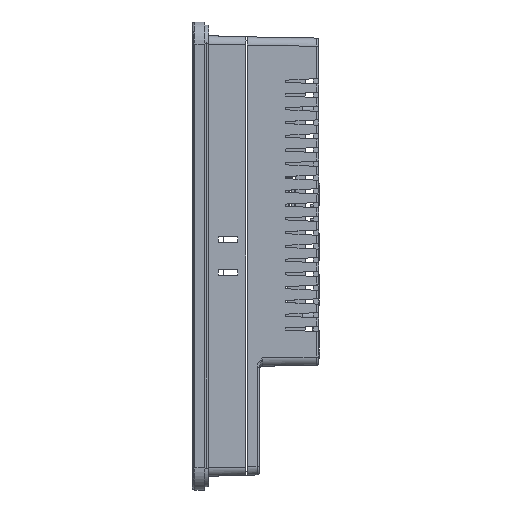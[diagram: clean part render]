
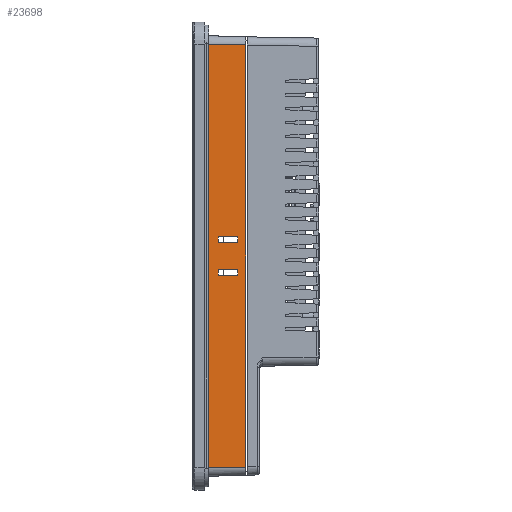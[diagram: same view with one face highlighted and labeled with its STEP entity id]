
A CAD part, left-side view. The second image highlights one B-rep face of the part: STEP entity #23698.
In plain terms, the highlighted planar face has unit normal (-1, -0.018, 0).
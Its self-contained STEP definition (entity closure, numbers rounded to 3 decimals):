
#2379 = EDGE_CURVE ( 'NONE', #91436, #16927, #16075, .T. ) ;
#2589 = CARTESIAN_POINT ( 'NONE',  ( -126.791, -12., 7. ) ) ;
#3004 = CARTESIAN_POINT ( 'NONE',  ( -127., 0., -7. ) ) ;
#4069 = CARTESIAN_POINT ( 'NONE',  ( -127., 0., 7. ) ) ;
#5591 = CARTESIAN_POINT ( 'NONE',  ( -127.026, 1.5, 77.027 ) ) ;
#7937 = AXIS2_PLACEMENT_3D ( 'NONE', #29716, #52739, #30444 ) ;
#9036 = DIRECTION ( 'NONE',  ( 0., 0., -1. ) ) ;
#11118 = CARTESIAN_POINT ( 'NONE',  ( -126.913, -5., 4.9 ) ) ;
#13306 = ORIENTED_EDGE ( 'NONE', *, *, #54019, .F. ) ;
#13362 = LINE ( 'NONE', #3004, #133371 ) ;
#14796 = LINE ( 'NONE', #128243, #76626 ) ;
#16075 = LINE ( 'NONE', #50149, #136187 ) ;
#16927 = VERTEX_POINT ( 'NONE', #146467 ) ;
#17894 = FACE_BOUND ( 'NONE', #75942, .T. ) ;
#19926 = CARTESIAN_POINT ( 'NONE',  ( -126.913, -5., -7. ) ) ;
#20518 = ORIENTED_EDGE ( 'NONE', *, *, #23829, .T. ) ;
#21131 = VERTEX_POINT ( 'NONE', #31387 ) ;
#23698 = ADVANCED_FACE ( 'NONE', ( #17894, #99414, #144587 ), #63160, .T. ) ;
#23829 = EDGE_CURVE ( 'NONE', #91436, #63311, #14796, .T. ) ;
#24703 = VERTEX_POINT ( 'NONE', #19926 ) ;
#25105 = LINE ( 'NONE', #127489, #29040 ) ;
#25112 = DIRECTION ( 'NONE',  ( -0.017, 1., 0.017 ) ) ;
#26780 = VECTOR ( 'NONE', #54933, 1000. ) ;
#29040 = VECTOR ( 'NONE', #116368, 1000. ) ;
#29716 = CARTESIAN_POINT ( 'NONE',  ( -127., 0., 80. ) ) ;
#30444 = DIRECTION ( 'NONE',  ( 0.017, -1., 0. ) ) ;
#30499 = VERTEX_POINT ( 'NONE', #71595 ) ;
#31270 = VECTOR ( 'NONE', #95879, 1000. ) ;
#31387 = CARTESIAN_POINT ( 'NONE',  ( -126.913, -5., 7. ) ) ;
#32977 = CARTESIAN_POINT ( 'NONE',  ( -126.913, -5., -4.9 ) ) ;
#33144 = CARTESIAN_POINT ( 'NONE',  ( -126.738, -15., 76.739 ) ) ;
#33234 = VECTOR ( 'NONE', #61159, 1000. ) ;
#35046 = VERTEX_POINT ( 'NONE', #107329 ) ;
#35408 = LINE ( 'NONE', #123006, #104880 ) ;
#37284 = CARTESIAN_POINT ( 'NONE',  ( -126.791, -12., -4.9 ) ) ;
#38884 = EDGE_CURVE ( 'NONE', #30499, #59690, #129456, .T. ) ;
#45576 = EDGE_CURVE ( 'NONE', #133675, #24703, #86918, .T. ) ;
#50149 = CARTESIAN_POINT ( 'NONE',  ( -126.738, -15., 80. ) ) ;
#50615 = CARTESIAN_POINT ( 'NONE',  ( -127., 0., 4.9 ) ) ;
#52739 = DIRECTION ( 'NONE',  ( -1., -0.017, 0. ) ) ;
#53720 = CARTESIAN_POINT ( 'NONE',  ( -126.913, -5., 80. ) ) ;
#54019 = EDGE_CURVE ( 'NONE', #21131, #133216, #110086, .T. ) ;
#54933 = DIRECTION ( 'NONE',  ( 0.017, -1., 0.017 ) ) ;
#56674 = EDGE_CURVE ( 'NONE', #73478, #21131, #82626, .T. ) ;
#59064 = ORIENTED_EDGE ( 'NONE', *, *, #144924, .T. ) ;
#59690 = VERTEX_POINT ( 'NONE', #37284 ) ;
#60037 = CARTESIAN_POINT ( 'NONE',  ( -126.791, -12., 80. ) ) ;
#61159 = DIRECTION ( 'NONE',  ( -0.017, 1., 0. ) ) ;
#61817 = ORIENTED_EDGE ( 'NONE', *, *, #56674, .F. ) ;
#62522 = CARTESIAN_POINT ( 'NONE',  ( -126.913, -5., 80. ) ) ;
#63160 = PLANE ( 'NONE',  #7937 ) ;
#63311 = VERTEX_POINT ( 'NONE', #5591 ) ;
#68370 = ORIENTED_EDGE ( 'NONE', *, *, #91863, .F. ) ;
#71595 = CARTESIAN_POINT ( 'NONE',  ( -126.791, -12., -7. ) ) ;
#73478 = VERTEX_POINT ( 'NONE', #2589 ) ;
#73901 = DIRECTION ( 'NONE',  ( 0., 0., -1. ) ) ;
#74777 = EDGE_LOOP ( 'NONE', ( #134138, #92018, #68370, #140982 ) ) ;
#74839 = CARTESIAN_POINT ( 'NONE',  ( -126.791, -12., 4.9 ) ) ;
#75942 = EDGE_LOOP ( 'NONE', ( #61817, #118372, #103596, #13306 ) ) ;
#76626 = VECTOR ( 'NONE', #25112, 1000. ) ;
#80689 = DIRECTION ( 'NONE',  ( 0., 0., -1. ) ) ;
#82626 = LINE ( 'NONE', #4069, #33234 ) ;
#85645 = DIRECTION ( 'NONE',  ( 0., 0., -1. ) ) ;
#86918 = LINE ( 'NONE', #62522, #132771 ) ;
#87772 = ORIENTED_EDGE ( 'NONE', *, *, #112781, .T. ) ;
#91436 = VERTEX_POINT ( 'NONE', #33144 ) ;
#91863 = EDGE_CURVE ( 'NONE', #24703, #30499, #13362, .T. ) ;
#92018 = ORIENTED_EDGE ( 'NONE', *, *, #38884, .F. ) ;
#93367 = DIRECTION ( 'NONE',  ( 0., 0., 1. ) ) ;
#95879 = DIRECTION ( 'NONE',  ( 0.017, -1., 0. ) ) ;
#98268 = DIRECTION ( 'NONE',  ( 0., 0., 1. ) ) ;
#99414 = FACE_OUTER_BOUND ( 'NONE', #144235, .T. ) ;
#102336 = DIRECTION ( 'NONE',  ( 0.017, -1., 0. ) ) ;
#103003 = VECTOR ( 'NONE', #98268, 1000. ) ;
#103596 = ORIENTED_EDGE ( 'NONE', *, *, #125517, .F. ) ;
#104880 = VECTOR ( 'NONE', #80689, 1000. ) ;
#105467 = VERTEX_POINT ( 'NONE', #74839 ) ;
#105986 = ORIENTED_EDGE ( 'NONE', *, *, #2379, .F. ) ;
#106433 = CARTESIAN_POINT ( 'NONE',  ( -126.791, -12., 80. ) ) ;
#107329 = CARTESIAN_POINT ( 'NONE',  ( -127.026, 1.5, -77.027 ) ) ;
#110086 = LINE ( 'NONE', #53720, #129863 ) ;
#111287 = CARTESIAN_POINT ( 'NONE',  ( -126.952, -2.739, -76.953 ) ) ;
#112781 = EDGE_CURVE ( 'NONE', #35046, #16927, #123103, .T. ) ;
#115830 = EDGE_CURVE ( 'NONE', #59690, #133675, #25105, .T. ) ;
#116368 = DIRECTION ( 'NONE',  ( -0.017, 1., 0. ) ) ;
#117373 = LINE ( 'NONE', #50615, #31270 ) ;
#118372 = ORIENTED_EDGE ( 'NONE', *, *, #136379, .F. ) ;
#123006 = CARTESIAN_POINT ( 'NONE',  ( -127.026, 1.5, -77. ) ) ;
#123103 = LINE ( 'NONE', #111287, #26780 ) ;
#125517 = EDGE_CURVE ( 'NONE', #133216, #105467, #117373, .T. ) ;
#127489 = CARTESIAN_POINT ( 'NONE',  ( -127., 0., -4.9 ) ) ;
#128243 = CARTESIAN_POINT ( 'NONE',  ( -127.001, 0.052, 77.001 ) ) ;
#129456 = LINE ( 'NONE', #106433, #103003 ) ;
#129863 = VECTOR ( 'NONE', #85645, 1000. ) ;
#132771 = VECTOR ( 'NONE', #9036, 1000. ) ;
#133216 = VERTEX_POINT ( 'NONE', #11118 ) ;
#133371 = VECTOR ( 'NONE', #102336, 1000. ) ;
#133675 = VERTEX_POINT ( 'NONE', #32977 ) ;
#134138 = ORIENTED_EDGE ( 'NONE', *, *, #115830, .F. ) ;
#136187 = VECTOR ( 'NONE', #73901, 1000. ) ;
#136379 = EDGE_CURVE ( 'NONE', #105467, #73478, #143487, .T. ) ;
#137647 = VECTOR ( 'NONE', #93367, 1000. ) ;
#140982 = ORIENTED_EDGE ( 'NONE', *, *, #45576, .F. ) ;
#143487 = LINE ( 'NONE', #60037, #137647 ) ;
#144235 = EDGE_LOOP ( 'NONE', ( #59064, #87772, #105986, #20518 ) ) ;
#144587 = FACE_BOUND ( 'NONE', #74777, .T. ) ;
#144924 = EDGE_CURVE ( 'NONE', #63311, #35046, #35408, .T. ) ;
#146467 = CARTESIAN_POINT ( 'NONE',  ( -126.738, -15., -76.739 ) ) ;
